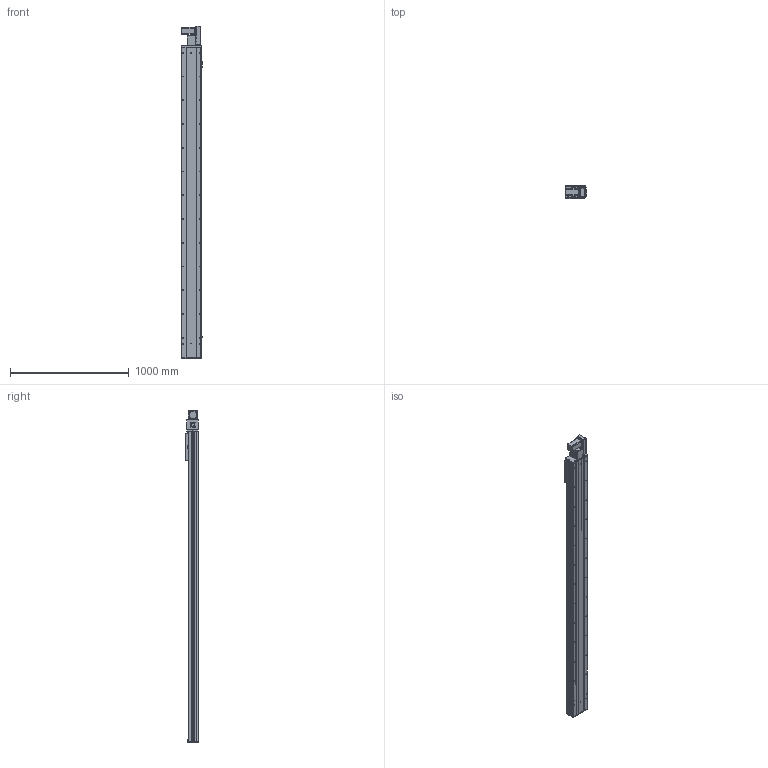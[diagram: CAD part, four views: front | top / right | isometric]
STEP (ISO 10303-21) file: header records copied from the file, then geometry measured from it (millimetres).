
FILE_DESCRIPTION (( 'STEP AP203' ), '1' );
FILE_NAME ('Y170CB-D105-S2300-BR-P400W.STEP', '2020-02-19T09:45:37', ( '微软用户' ), ( '微软中国' ), 'SwSTEP 2.0', 'SolidWorks 2017', '' );
FILE_SCHEMA (( 'CONFIG_CONTROL_DESIGN' ));
Length unit declared in the file: millimetre
Products named in the file (17): 70B喘謫眊----; B-源倛裔啣; 17B-耜蚾蟀諉啣----; 0B-萇儂楊擘啣; san松下电机400不带刹车----; Y70俋欶BR----; 70CB-掛极-; --70CB --喘謫眊楊擘啣-; 70CB-耜裔啣-; 70C--詩湍揤踡え-; 70CB--耜裔; 70C-雄赽釱-奻-; 0C--雄赽釱俋欶-170; 70CB-詩湍--; Y100-135俋离換覜ん--; Y170CB-陔俋离換覜結え---; Y170CB-D105-S2300-BR-P400W
Assembly tree (20 placements, depth 2):
  Y170CB-D105-S2300-BR-P400W
    70B喘謫眊----
    B-源倛裔啣
    17B-耜蚾蟀諉啣----
    0B-萇儂楊擘啣
    san松下电机400不带刹车----
    Y70俋欶BR----
    70CB-掛极-
    --70CB --喘謫眊楊擘啣-
    70CB-耜裔啣-  x2
    70C--詩湍揤踡え-  x2
    70CB--耜裔
    70C-雄赽釱-奻-
    0C--雄赽釱俋欶-170
    70CB-詩湍--
    Y100-135俋离換覜ん--  x3
    Y170CB-陔俋离換覜結え---
Bounding box: 183.5 x 107 x 2797 mm (x, y, z)
Volume: 11650281.7 mm3; surface area: 4197632.7 mm2
Topology: 20 solids, 20 shells, 1049 faces, 2825 edges, 1874 vertices
Faces by surface type: cylinder 563, plane 462, cone 24
Entity records: 33503 total; most frequent: CARTESIAN_POINT 6201, DIRECTION 5452, ORIENTED_EDGE 5132, EDGE_CURVE 2566, AXIS2_PLACEMENT_3D 2005, VERTEX_POINT 1704, LINE 1442, VECTOR 1442
